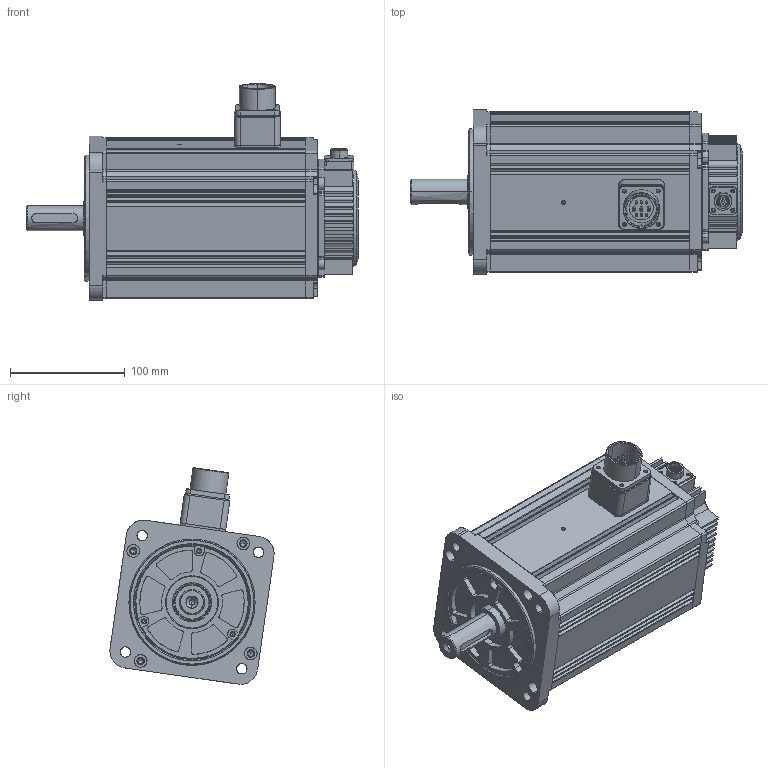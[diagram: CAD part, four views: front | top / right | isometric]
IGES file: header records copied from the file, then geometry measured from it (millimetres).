
Start section: SolidWorks IGES file using analytic representation for surfaces
Global section: file name: Z:\Products\Servo\Servo Motor\EMG-20-B24\UMM-0020EAB-B2 UMM-0020CAB-B2 CAD Files\UMM-0020EAB-B2 UMM-0020CAB-B2.IGS; native system: SolidWorks 2017; preprocessor: SolidWorks 2017; author: laorb; date: 190418.095244; units: millimetre
Bounding box: 289.5 x 143.17 x 188.87 mm (x, y, z)
Surface area: 422195 mm2 (no closed solid volume)
Topology: 0 solids, 0 shells, 1465 faces, 22773 edges, 22659 vertices
Faces by surface type: revolution 790, bspline 675
